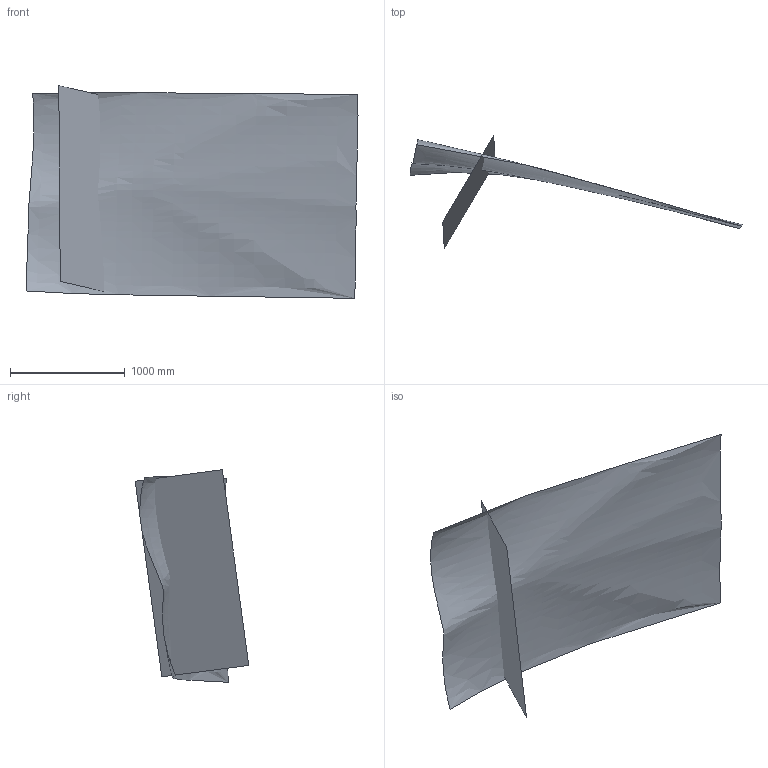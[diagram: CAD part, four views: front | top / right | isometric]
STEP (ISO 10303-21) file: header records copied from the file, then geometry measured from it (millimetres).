
FILE_DESCRIPTION(('CATIA V5 STEP Exchange'),'2;1');
FILE_NAME('C:\Users\ww962c\Desktop\CATIA Working\CRM-HL\elev01.stp','2022-12-07T20:57:28+00:00',('none'),('none'),'CATIA Version 5-6 Release 2018 SP6 HF6','CATIA V5 STEP AP203','none');
FILE_SCHEMA(('CONFIG_CONTROL_DESIGN'));
Length unit declared in the file: inch
Products named in the file (1): Part2
Bounding box: 2897.76 x 991.76 x 1855.93 mm (x, y, z)
Surface area: 6724736.8 mm2 (no closed solid volume)
Topology: 0 solids, 2 shells, 2 faces, 9 edges, 10 vertices
Faces by surface type: plane 1, bspline 1
Entity records: 13487 total; most frequent: CARTESIAN_POINT 13375, ORIENTED_EDGE 8, EDGE_CURVE 8, VERTEX_POINT 8, DIRECTION 7, VECTOR 5, LINE 5, B_SPLINE_CURVE_WITH_KNOTS 4
